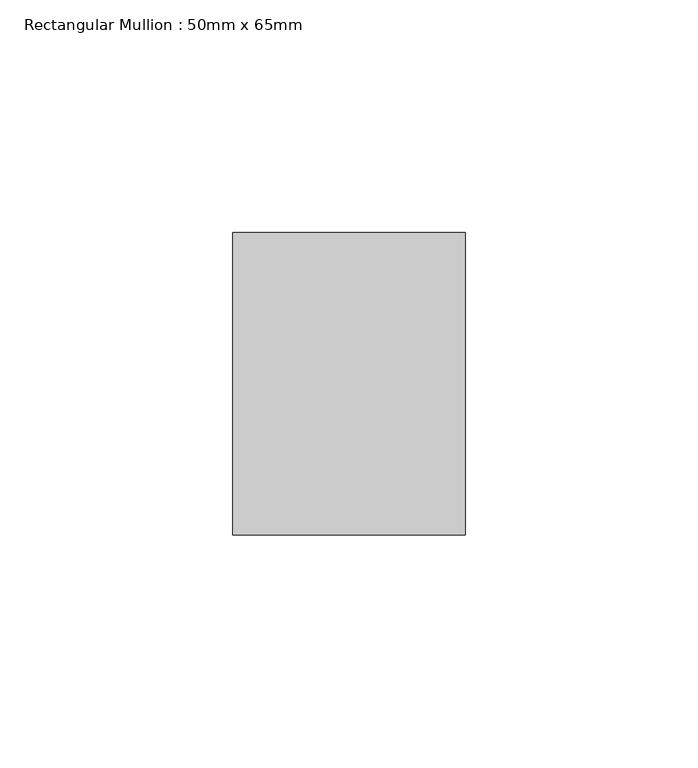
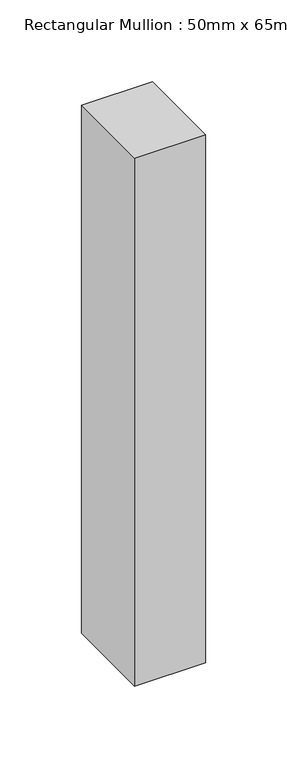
"""IFC4 building model written with IfcOpenShell, lengths in millimetres: member geometry, Rectangular Mullion : 50mm x 65mm."""

from ifc_helpers import new_model, si_unit, frame, origin, place, context, project, spatial, polyline, outline, extrude, source, transform, mapped, element, save


def rectangular_mullion_50mm_x_65mm_891f7412(model_context):
    return source(origin(), model_context, "Body", "SweptSolid", [
        extrude(outline(polyline([(25.0, 32.5), (25.0, -32.5), (-25.0, -32.5), (-25.0, 32.5), (25.0, 32.5)])), frame((0.0, 0.0, -394.3395716), z_axis=(0.0, 0.0, 1.0), x_axis=(1.0, 0.0, 0.0)), (0.0, 0.0, 1.0), 394.3395716),
    ])


if __name__ == "__main__":
    model = new_model("IFC4")
    model_context = context("Model", 3, world=origin())
    ifc_project = project(units=[si_unit("LENGTHUNIT", "METRE", prefix="MILLI")], contexts=[model_context])
    site = spatial("IfcSite", under=ifc_project)
    building = spatial("IfcBuilding", under=site)
    placement = place(None, origin())
    rectangular_mullion_50mm_x_65mm_shape = rectangular_mullion_50mm_x_65mm_891f7412(model_context)
    element("IfcMember", 1, ObjectType="Rectangular Mullion : 50mm x 65mm", at=placement, inside=building, context=model_context, shape_type="MappedRepresentation", body=[
        mapped(rectangular_mullion_50mm_x_65mm_shape, transform((0.0, 0.0, 0.0), x_axis=(1.0, 0.0, 0.0), y_axis=(0.0, 1.0, 0.0), z_axis=(0.0, 0.0, 1.0))),
    ])
    save(model, "model.ifc")
